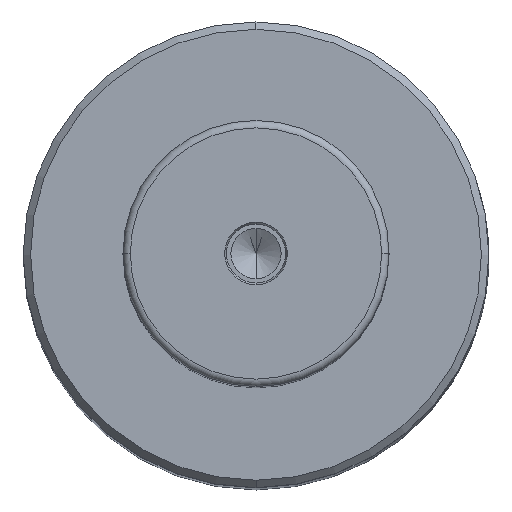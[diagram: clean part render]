
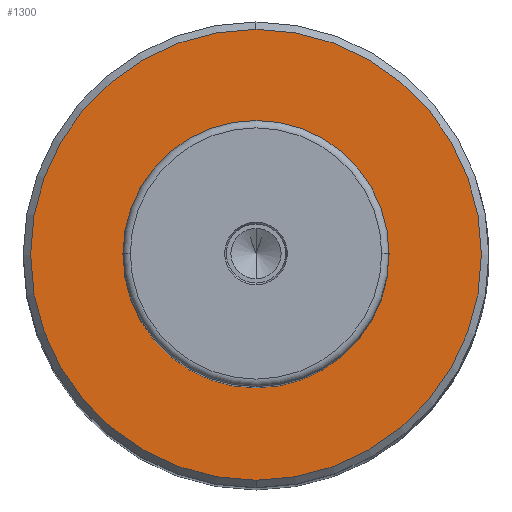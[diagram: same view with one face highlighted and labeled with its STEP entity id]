
A CAD part, top view. The second image highlights one B-rep face of the part: STEP entity #1300.
In plain terms, the highlighted planar face has unit normal (0, 0, 1).
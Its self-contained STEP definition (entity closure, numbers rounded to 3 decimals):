
#1124 = VERTEX_POINT('',#1125);
#1125 = CARTESIAN_POINT('',(0.,30.5,184.));
#1131 = EDGE_CURVE('',#1132,#1124,#1134,.T.);
#1132 = VERTEX_POINT('',#1133);
#1133 = CARTESIAN_POINT('',(0.,-30.5,184.));
#1134 = CIRCLE('',#1135,30.5);
#1135 = AXIS2_PLACEMENT_3D('',#1136,#1137,#1138);
#1136 = CARTESIAN_POINT('',(0.,0.,184.));
#1137 = DIRECTION('',(0.,0.,1.));
#1138 = DIRECTION('',(0.,1.,0.));
#1158 = EDGE_CURVE('',#1124,#1132,#1159,.T.);
#1159 = CIRCLE('',#1160,30.5);
#1160 = AXIS2_PLACEMENT_3D('',#1161,#1162,#1163);
#1161 = CARTESIAN_POINT('',(0.,0.,184.));
#1162 = DIRECTION('',(0.,0.,1.));
#1163 = DIRECTION('',(0.,1.,0.));
#1300 = ADVANCED_FACE('',(#1301,#1321),#1325,.T.);
#1301 = FACE_BOUND('',#1302,.T.);
#1302 = EDGE_LOOP('',(#1303,#1314));
#1303 = ORIENTED_EDGE('',*,*,#1304,.F.);
#1304 = EDGE_CURVE('',#1305,#1307,#1309,.T.);
#1305 = VERTEX_POINT('',#1306);
#1306 = CARTESIAN_POINT('',(0.,18.,184.));
#1307 = VERTEX_POINT('',#1308);
#1308 = CARTESIAN_POINT('',(0.,-18.,184.));
#1309 = CIRCLE('',#1310,18.);
#1310 = AXIS2_PLACEMENT_3D('',#1311,#1312,#1313);
#1311 = CARTESIAN_POINT('',(0.,0.,184.));
#1312 = DIRECTION('',(0.,0.,1.));
#1313 = DIRECTION('',(0.,1.,0.));
#1314 = ORIENTED_EDGE('',*,*,#1315,.F.);
#1315 = EDGE_CURVE('',#1307,#1305,#1316,.T.);
#1316 = CIRCLE('',#1317,18.);
#1317 = AXIS2_PLACEMENT_3D('',#1318,#1319,#1320);
#1318 = CARTESIAN_POINT('',(0.,0.,184.));
#1319 = DIRECTION('',(0.,0.,1.));
#1320 = DIRECTION('',(0.,1.,0.));
#1321 = FACE_BOUND('',#1322,.T.);
#1322 = EDGE_LOOP('',(#1323,#1324));
#1323 = ORIENTED_EDGE('',*,*,#1158,.T.);
#1324 = ORIENTED_EDGE('',*,*,#1131,.T.);
#1325 = PLANE('',#1326);
#1326 = AXIS2_PLACEMENT_3D('',#1327,#1328,#1329);
#1327 = CARTESIAN_POINT('',(0.,24.25,184.));
#1328 = DIRECTION('',(0.,0.,1.));
#1329 = DIRECTION('',(0.,1.,0.));
